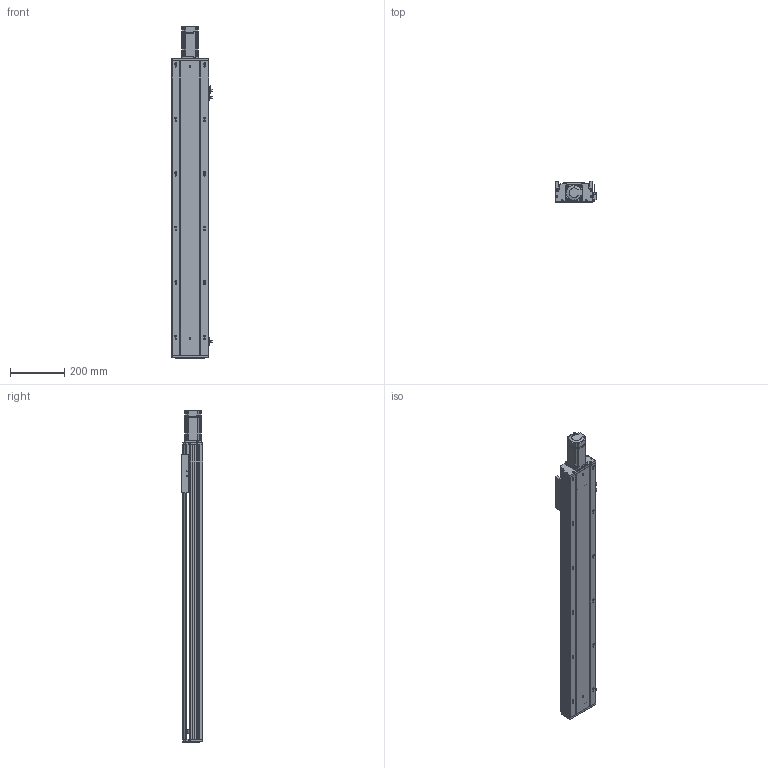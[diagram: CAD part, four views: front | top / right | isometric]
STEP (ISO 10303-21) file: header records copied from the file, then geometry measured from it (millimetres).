
FILE_DESCRIPTION (( 'STEP AP203' ), '1' );
FILE_NAME ('RY140Q-L2010-700-MK.SLDASM_0850.step', '2021-05-27T03:22:30', ( '盈信电脑' ), ( '东莞市道滘镇水果街19号' ), 'SwSTEP 2.0', 'SolidWorks 2016', '' );
FILE_SCHEMA (( 'CONFIG_CONTROL_DESIGN' ));
Length unit declared in the file: millimetre
Products named in the file (14): RY140Q-700-MK倰第菁釱_0850; 侂狟400W侜督萇儂; RY140Q萇儂傷盓傅釱FK12(80.5酗M5); 覜茼ん672; RY140ヶ裔啣; RY120外置感应片(140共用）; RY140Q-L2010-700-MK.SLDASM_0850; RY140綴裔啣; 滅袉蝶18-15; RY140Q臏賑輸(20佪裝-J); 滅袉蝶18-10; RY140Q-700-MK倰第奻裔啣_0850; 15; 鞠褒坶踡蹟譫BK12 
Assembly tree (16 placements, depth 3):
  RY140Q-L2010-700-MK.SLDASM_0850
    RY140Q-700-MK倰第菁釱_0850
    RY140Q臏賑輸(20佪裝-J)
    RY140Q-700-MK倰第奻裔啣_0850
    RY140ヶ裔啣
    侂狟400W侜督萇儂
      15
    鞠褒坶踡蹟譫BK12 
    RY140綴裔啣
    覜茼ん672  x3
    RY120外置感应片(140共用）
    RY140Q萇儂傷盓傅釱FK12(80.5酗M5)
    滅袉蝶18-10
    滅袉蝶18-15  x2
Bounding box: 148.7 x 78 x 1219.5 mm (x, y, z)
Volume: 3484954.5 mm3; surface area: 1259616 mm2
Topology: 15 solids, 15 shells, 2107 faces, 5810 edges, 3715 vertices
Faces by surface type: plane 1086, cylinder 732, cone 204, bspline 85
Entity records: 69529 total; most frequent: CARTESIAN_POINT 16656, ORIENTED_EDGE 10904, DIRECTION 10382, EDGE_CURVE 5452, VERTEX_POINT 3575, VECTOR 3506, LINE 3506, AXIS2_PLACEMENT_3D 3438
